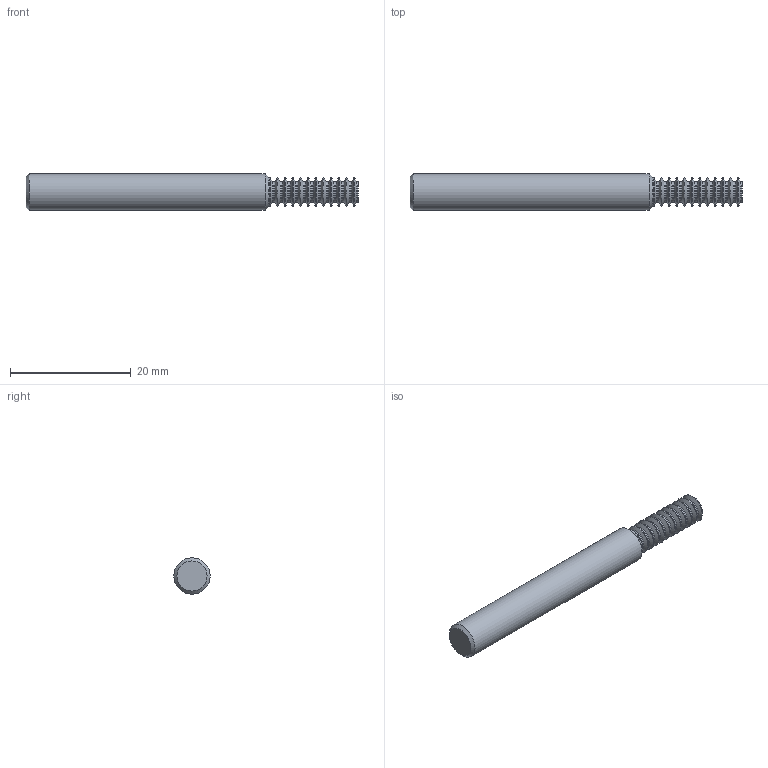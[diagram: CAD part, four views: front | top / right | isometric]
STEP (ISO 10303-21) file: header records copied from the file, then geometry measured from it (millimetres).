
FILE_DESCRIPTION(/* description */ (''),/* implementation_level */ '2;1');
FILE_NAME(/* name */ '00032311-TDM',/* time_stamp */ '2024-02-20T14:07:39+01:00',/* author */ (''),/* organization */ (''),/* preprocessor_version */ 'ST-DEVELOPER v16.5',/* originating_system */ 'HiCAD 2017 2201.0 Build 268',/* authorisation */ '');
FILE_SCHEMA (('AUTOMOTIVE_DESIGN { 1 0 10303 214 1 1 1 1 }'));
Length unit declared in the file: millimetre
Products named in the file (3): Root; ROTATIONSTEIL_1
Assembly tree (2 placements, depth 3):
  Root
    ROTATIONSTEIL_1
      ROTATIONSTEIL_1
Bounding box: 55 x 6 x 6 mm (x, y, z)
Volume: 1312.7 mm3; surface area: 1124.9 mm2
Topology: 2 solids, 2 shells, 78 faces, 151 edges, 77 vertices
Faces by surface type: torus 35, cone 25, cylinder 14, plane 4
Full cylindrical faces by diameter (mm): 3.376 x12, 4.8 x1, 6 x1
Entity records: 2364 total; most frequent: DIRECTION 316, CARTESIAN_POINT 234, AXIS2_PLACEMENT_3D 158, PRESENTATION_STYLE_ASSIGNMENT 154, COLOUR_RGB 154, DRAUGHTING_PRE_DEFINED_CURVE_FONT 152, CURVE_STYLE 152, OVER_RIDING_STYLED_ITEM 152
